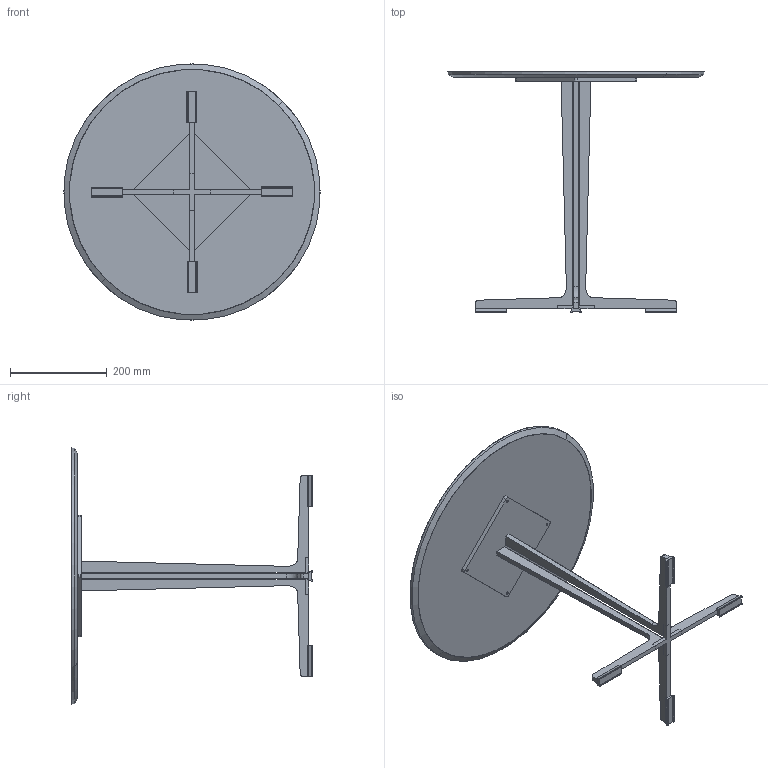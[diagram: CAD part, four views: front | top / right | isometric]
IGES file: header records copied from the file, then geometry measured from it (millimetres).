
Start section: SolidWorks IGES file using analytic representation for surfaces
Global section: file name: W:\design\CKR\spilt\IGS\DIAM53.IGS; native system: SolidWorks 2010; preprocessor: SolidWorks 2010; author: PC20; date: 150212.183143; units: millimetre
Bounding box: 529 x 497 x 529 mm (x, y, z)
Surface area: 695036.6 mm2 (no closed solid volume)
Topology: 0 solids, 0 shells, 229 faces, 4352 edges, 5546 vertices
Faces by surface type: bspline 158, revolution 71
